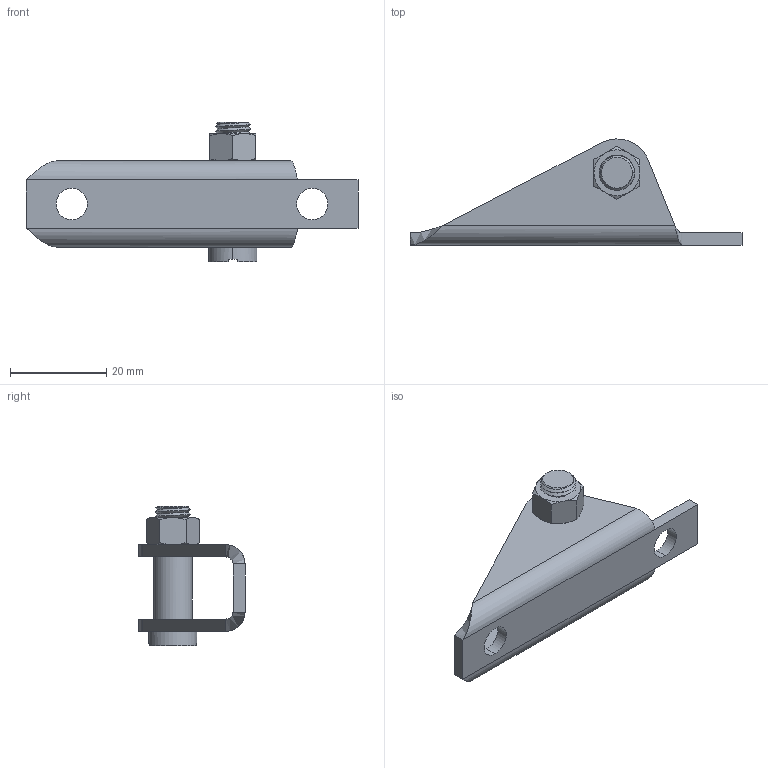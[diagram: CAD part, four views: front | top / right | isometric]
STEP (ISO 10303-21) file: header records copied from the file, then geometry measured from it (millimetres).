
FILE_DESCRIPTION (( 'STEP AP214' ), '1' );
FILE_NAME ('15.BVS-032.STEP', '2017-10-09T07:57:39', ( '' ), ( '' ), 'SwSTEP 2.0', 'SolidWorks 2016', '' );
FILE_SCHEMA (( 'AUTOMOTIVE_DESIGN' ));
Length unit declared in the file: millimetre
Products named in the file (1): 15.BVS-032
Bounding box: 69 x 22.05 x 29 mm (x, y, z)
Volume: 6610 mm3; surface area: 5896 mm2
Topology: 2 solids, 2 shells, 78 faces, 176 edges, 105 vertices
Faces by surface type: plane 30, cylinder 23, cone 18, bspline 7
Entity records: 3446 total; most frequent: CARTESIAN_POINT 1717, ORIENTED_EDGE 352, DIRECTION 336, EDGE_CURVE 176, AXIS2_PLACEMENT_3D 128, VERTEX_POINT 105, EDGE_LOOP 89, VECTOR 80
